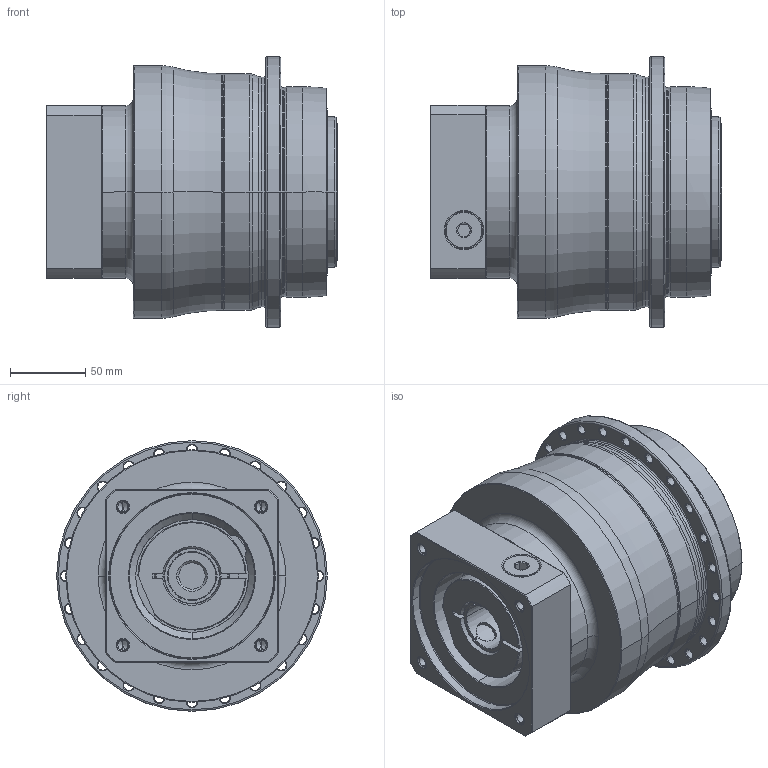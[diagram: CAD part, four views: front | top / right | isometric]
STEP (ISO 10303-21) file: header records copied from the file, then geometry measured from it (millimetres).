
FILE_DESCRIPTION((''),'2;1');
FILE_NAME('AP140_2ST_32-P0409710201_ASM','2018-05-29T',('d01226'),(''),'PRO/ENGINEER BY PARAMETRIC TECHNOLOGY CORPORATION, 2008410','PRO/ENGINEER BY PARAMETRIC TECHNOLOGY CORPORATION, 2008410','');
FILE_SCHEMA(('CONFIG_CONTROL_DESIGN'));
Length unit declared in the file: millimetre
Products named in the file (9): P0278501003; P0359501103; P1317510301; P0503700010; P0912453001; P1211500001; P0409710201; 21711418017; AP140_2ST_32-P0409710201_ASM
Assembly tree (8 placements, depth 2):
  AP140_2ST_32-P0409710201_ASM
    P0278501003
    P0359501103
    P1317510301
    P0503700010
    P0912453001
    P1211500001
    P0409710201
    21711418017
Bounding box: 194 x 180 x 180 mm (x, y, z)
Volume: 2775855.6 mm3; surface area: 324906 mm2
Topology: 9 solids, 34 shells, 645 faces, 1501 edges, 926 vertices
Faces by surface type: cylinder 273, cone 177, plane 108, torus 73, bspline 14
Entity records: 23516 total; most frequent: CARTESIAN_POINT 7976, DIRECTION 3577, ORIENTED_EDGE 2884, AXIS2_PLACEMENT_3D 1531, EDGE_CURVE 1493, VERTEX_POINT 926, CIRCLE 873, EDGE_LOOP 801
